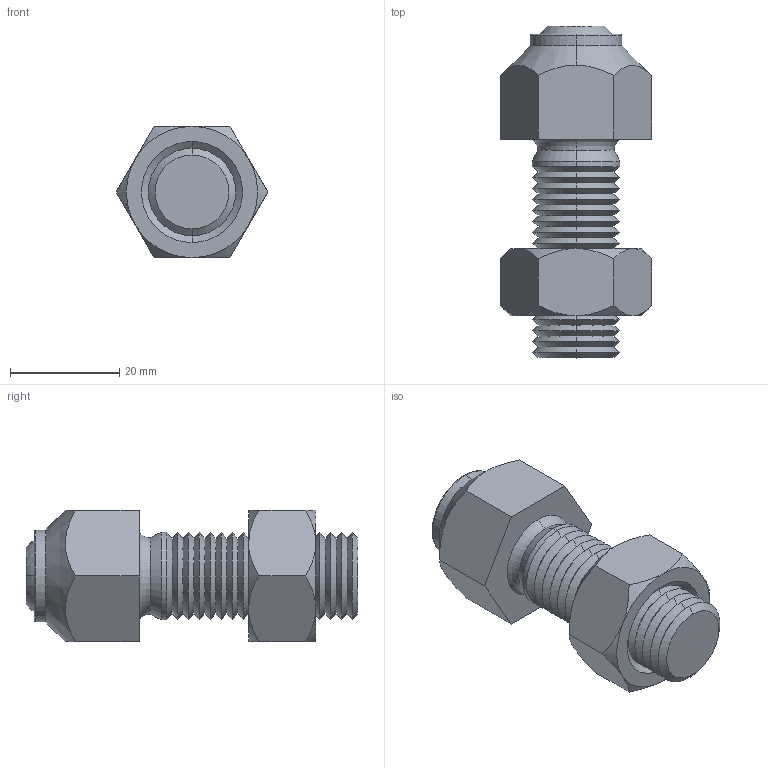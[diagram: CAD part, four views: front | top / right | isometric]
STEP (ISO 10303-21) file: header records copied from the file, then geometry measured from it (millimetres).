
FILE_DESCRIPTION (( 'STEP AP203' ), '1' );
FILE_NAME ('34120.W0024.step', '2017-03-27T09:20:06', ( 'User' ), ( '' ), 'SwSTEP 2.0', 'SolidWorks 2009', '' );
FILE_SCHEMA (( 'CONFIG_CONTROL_DESIGN' ));
Length unit declared in the file: millimetre
Products named in the file (4): Part1_34120.W0024; Part2_34120.W0024; Part3_34120.W0024; 34120.W0024
Assembly tree (3 placements, depth 2):
  34120.W0024
    Part3_34120.W0024
    Part1_34120.W0024
    Part2_34120.W0024
Bounding box: 27.71 x 60.7 x 24 mm (x, y, z)
Volume: 18876.7 mm3; surface area: 8464.5 mm2
Topology: 3 solids, 3 shells, 130 faces, 280 edges, 154 vertices
Faces by surface type: cone 90, plane 20, torus 8, cylinder 8, sphere 4
Entity records: 3978 total; most frequent: CARTESIAN_POINT 798, DIRECTION 644, ORIENTED_EDGE 540, EDGE_CURVE 270, AXIS2_PLACEMENT_3D 270, VERTEX_POINT 148, EDGE_LOOP 134, CIRCLE 134
